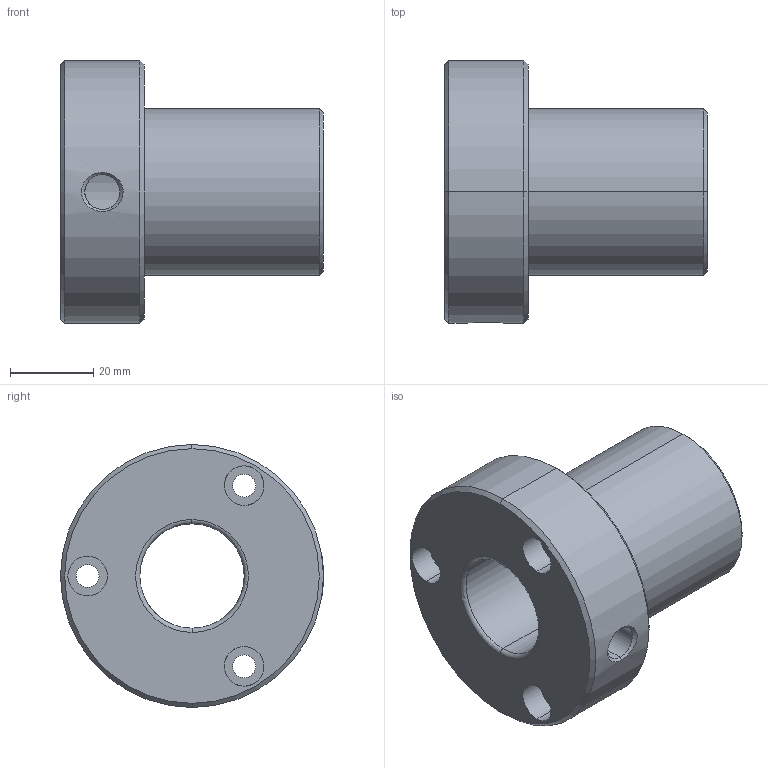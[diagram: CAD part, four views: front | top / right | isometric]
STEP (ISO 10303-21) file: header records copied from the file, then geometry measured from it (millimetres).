
FILE_DESCRIPTION(('CATIA V5 STEP Exchange'),'2;1');
FILE_NAME('C:\Users\Utente\Desktop\IO LAVORO\3D X SITO CF\X SITO\345-346\345-25.stp','2020-12-25T21:17:23+00:00',('none'),('none'),'CATIA Version 5 Release 20 GA (IN-10)','CATIA V5 STEP AP203','none');
FILE_SCHEMA(('CONFIG_CONTROL_DESIGN'));
Length unit declared in the file: millimetre
Products named in the file (1): 345-25
Bounding box: 63 x 63 x 63 mm (x, y, z)
Volume: 80973.5 mm3; surface area: 20790.7 mm2
Topology: 1 solids, 1 shells, 39 faces, 159 edges, 127 vertices
Faces by surface type: cylinder 22, cone 8, plane 7, torus 2
Entity records: 2020 total; most frequent: CARTESIAN_POINT 637, ORIENTED_EDGE 318, DIRECTION 212, EDGE_CURVE 159, AXIS2_PLACEMENT_3D 144, VERTEX_POINT 127, CIRCLE 104, EDGE_LOOP 54
